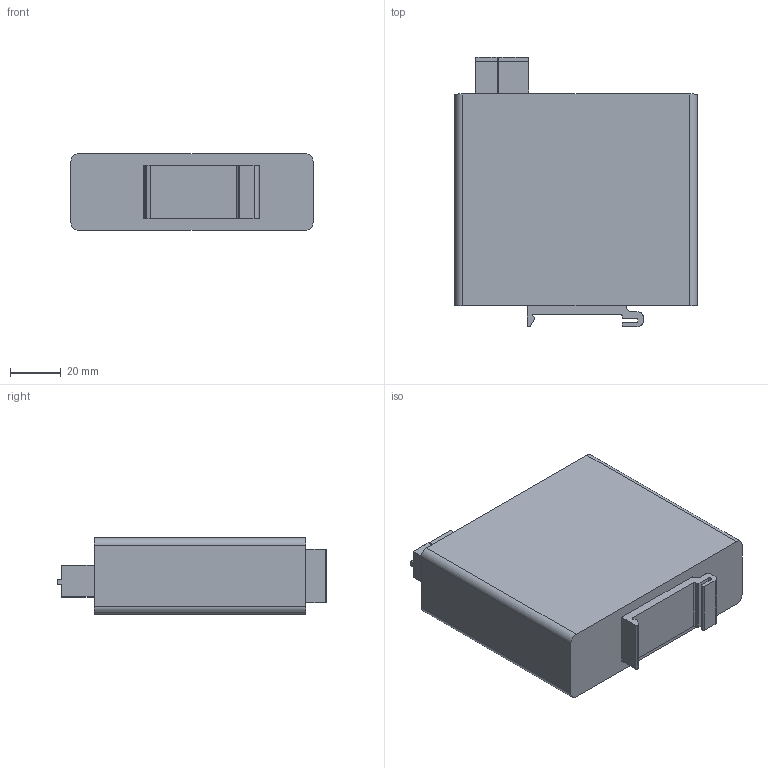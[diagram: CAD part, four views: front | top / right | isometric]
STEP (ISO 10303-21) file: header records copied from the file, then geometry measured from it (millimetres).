
FILE_DESCRIPTION((''),'2;1');
FILE_NAME('ASM0002_ASM_6_ASM','2026-05-28T',('Administrator'),(''),'PRO/ENGINEER BY PARAMETRIC TECHNOLOGY CORPORATION, 2015240','PRO/ENGINEER BY PARAMETRIC TECHNOLOGY CORPORATION, 2015240','');
FILE_SCHEMA(('CONFIG_CONTROL_DESIGN'));
Length unit declared in the file: millimetre
Products named in the file (13): PRT0001_4; PRT0010; PRT0011; PRT0012; PRT0013; ASM0001_ASM_1_ASM; ASM0004_ASM; PRT0002_1; PRT0015; PRT0016; PRT0004_1; PRT0017; ASM0002_ASM_6_ASM
Assembly tree (30 placements, depth 4):
  ASM0002_ASM_6_ASM
    PRT0001_4
    ASM0004_ASM
      ASM0001_ASM_1_ASM
        PRT0010
        PRT0011  x8
        PRT0012  x8
        PRT0013
    PRT0002_1
    ASM0001_ASM_1_ASM
      PRT0010
      PRT0011  x8
      PRT0012  x8
      PRT0013
    PRT0015
    PRT0016
    PRT0004_1  x4
    PRT0017
Bounding box: 95 x 105.61 x 30 mm (x, y, z)
Volume: 238340.2 mm3; surface area: 44775 mm2
Topology: 45 solids, 45 shells, 2965 faces, 8437 edges, 5608 vertices
Faces by surface type: plane 2180, cylinder 675, bspline 80, sphere 22, torus 8
Entity records: 60610 total; most frequent: CARTESIAN_POINT 13002, ORIENTED_EDGE 10160, DIRECTION 9541, EDGE_CURVE 5080, VECTOR 4013, LINE 4013, VERTEX_POINT 3377, AXIS2_PLACEMENT_3D 2764
